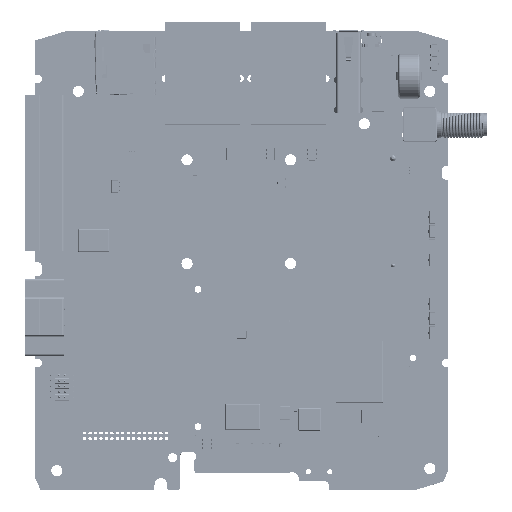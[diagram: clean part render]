
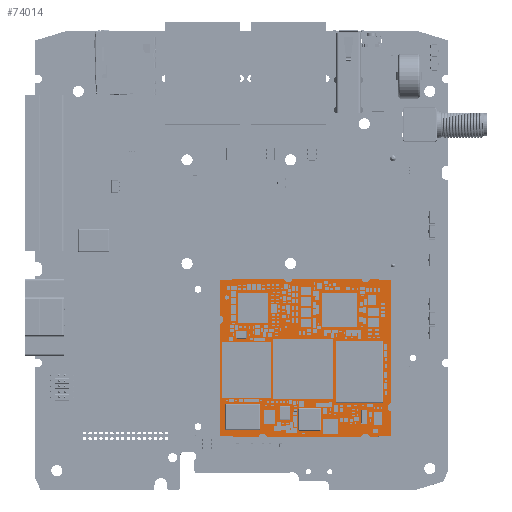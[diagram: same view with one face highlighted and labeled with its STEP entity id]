
A CAD part, top view. The second image highlights one B-rep face of the part: STEP entity #74014.
In plain terms, the highlighted planar face has unit normal (0, 0, 1).
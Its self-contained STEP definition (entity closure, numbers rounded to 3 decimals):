
#74014=ADVANCED_FACE('',(#143606),#143607,.T.);
#143606=FACE_OUTER_BOUND('',#234927,.T.);
#143607=PLANE('',#234928);
#234927=EDGE_LOOP('',(#379091,#379092,#379093,#379094,#379095,#379096,#379097,#379098,#379099,#379100,#379101,#379102,#379103,#379104,#379105,#379106,#379107,#379108,#379109,#379110,#379111,#379112,#379113,#379114));
#234928=AXIS2_PLACEMENT_3D('',#379115,#379116,#379117);
#379091=ORIENTED_EDGE('',*,*,#451080,.T.);
#379092=ORIENTED_EDGE('',*,*,#451088,.T.);
#379093=ORIENTED_EDGE('',*,*,#451085,.T.);
#379094=ORIENTED_EDGE('',*,*,#451089,.T.);
#379095=ORIENTED_EDGE('',*,*,#451090,.T.);
#379096=ORIENTED_EDGE('',*,*,#451091,.T.);
#379097=ORIENTED_EDGE('',*,*,#451092,.T.);
#379098=ORIENTED_EDGE('',*,*,#451093,.T.);
#379099=ORIENTED_EDGE('',*,*,#451094,.T.);
#379100=ORIENTED_EDGE('',*,*,#451095,.T.);
#379101=ORIENTED_EDGE('',*,*,#451096,.T.);
#379102=ORIENTED_EDGE('',*,*,#451097,.T.);
#379103=ORIENTED_EDGE('',*,*,#451098,.T.);
#379104=ORIENTED_EDGE('',*,*,#451099,.T.);
#379105=ORIENTED_EDGE('',*,*,#451100,.T.);
#379106=ORIENTED_EDGE('',*,*,#451101,.T.);
#379107=ORIENTED_EDGE('',*,*,#451102,.T.);
#379108=ORIENTED_EDGE('',*,*,#451103,.T.);
#379109=ORIENTED_EDGE('',*,*,#451104,.T.);
#379110=ORIENTED_EDGE('',*,*,#451075,.T.);
#379111=ORIENTED_EDGE('',*,*,#451105,.T.);
#379112=ORIENTED_EDGE('',*,*,#451106,.T.);
#379113=ORIENTED_EDGE('',*,*,#451107,.T.);
#379114=ORIENTED_EDGE('',*,*,#451108,.T.);
#379115=CARTESIAN_POINT('',(18.213,20.072,1.825));
#379116=DIRECTION('',(0.,0.,1.0));
#379117=DIRECTION('',(1.0,0.,0.0));
#451075=EDGE_CURVE('',#535448,#535446,#535449,.T.);
#451080=EDGE_CURVE('',#535457,#535455,#535458,.T.);
#451085=EDGE_CURVE('',#535466,#535464,#535467,.T.);
#451088=EDGE_CURVE('',#535455,#535466,#535470,.T.);
#451089=EDGE_CURVE('',#535464,#535471,#535472,.T.);
#451090=EDGE_CURVE('',#535471,#535473,#535474,.T.);
#451091=EDGE_CURVE('',#535473,#535475,#535476,.T.);
#451092=EDGE_CURVE('',#535475,#535477,#535478,.T.);
#451093=EDGE_CURVE('',#535477,#535479,#535480,.T.);
#451094=EDGE_CURVE('',#535479,#535481,#535482,.T.);
#451095=EDGE_CURVE('',#535481,#535483,#535484,.T.);
#451096=EDGE_CURVE('',#535483,#535485,#535486,.T.);
#451097=EDGE_CURVE('',#535485,#535487,#535488,.T.);
#451098=EDGE_CURVE('',#535487,#535489,#535490,.T.);
#451099=EDGE_CURVE('',#535489,#535491,#535492,.T.);
#451100=EDGE_CURVE('',#535491,#535493,#535494,.T.);
#451101=EDGE_CURVE('',#535493,#535495,#535496,.T.);
#451102=EDGE_CURVE('',#535495,#535497,#535498,.T.);
#451103=EDGE_CURVE('',#535497,#535499,#535500,.T.);
#451104=EDGE_CURVE('',#535499,#535448,#535501,.T.);
#451105=EDGE_CURVE('',#535446,#535502,#535503,.T.);
#451106=EDGE_CURVE('',#535502,#535504,#535505,.T.);
#451107=EDGE_CURVE('',#535504,#535506,#535507,.T.);
#451108=EDGE_CURVE('',#535506,#535457,#535508,.T.);
#535446=VERTEX_POINT('',#662700);
#535448=VERTEX_POINT('',#662703);
#535449=CIRCLE('',#662704,1.025);
#535455=VERTEX_POINT('',#662711);
#535457=VERTEX_POINT('',#662714);
#535458=CIRCLE('',#662715,1.025);
#535464=VERTEX_POINT('',#662722);
#535466=VERTEX_POINT('',#662725);
#535467=CIRCLE('',#662726,1.025);
#535470=LINE('',#662730,#662731);
#535471=VERTEX_POINT('',#662732);
#535472=LINE('',#662733,#662734);
#535473=VERTEX_POINT('',#662735);
#535474=CIRCLE('',#662736,1.);
#535475=VERTEX_POINT('',#662737);
#535476=LINE('',#662738,#662739);
#535477=VERTEX_POINT('',#662740);
#535478=LINE('',#662741,#662742);
#535479=VERTEX_POINT('',#662743);
#535480=CIRCLE('',#662744,1.025);
#535481=VERTEX_POINT('',#662745);
#535482=LINE('',#662746,#662747);
#535483=VERTEX_POINT('',#662748);
#535484=LINE('',#662749,#662750);
#535485=VERTEX_POINT('',#662751);
#535486=CIRCLE('',#662752,1.0);
#535487=VERTEX_POINT('',#662753);
#535488=LINE('',#662754,#662755);
#535489=VERTEX_POINT('',#662756);
#535490=CIRCLE('',#662757,1.025);
#535491=VERTEX_POINT('',#662758);
#535492=LINE('',#662759,#662760);
#535493=VERTEX_POINT('',#662761);
#535494=CIRCLE('',#662762,1.025);
#535495=VERTEX_POINT('',#662763);
#535496=LINE('',#662764,#662765);
#535497=VERTEX_POINT('',#662766);
#535498=CIRCLE('',#662767,1.);
#535499=VERTEX_POINT('',#662768);
#535500=LINE('',#662769,#662770);
#535501=LINE('',#662771,#662772);
#535502=VERTEX_POINT('',#662773);
#535503=LINE('',#662774,#662775);
#535504=VERTEX_POINT('',#662776);
#535505=LINE('',#662777,#662778);
#535506=VERTEX_POINT('',#662779);
#535507=CIRCLE('',#662780,1.0);
#535508=LINE('',#662781,#662782);
#662700=CARTESIAN_POINT('',(28.695,40.0,1.825));
#662703=CARTESIAN_POINT('',(30.705,40.0,1.825));
#662704=AXIS2_PLACEMENT_3D('',#728291,#728292,#728293);
#662711=CARTESIAN_POINT('',(-0.3,32.995,1.825));
#662714=CARTESIAN_POINT('',(-0.3,35.005,1.825));
#662715=AXIS2_PLACEMENT_3D('',#728299,#728300,#728301);
#662722=CARTESIAN_POINT('',(-0.3,14.995,1.825));
#662725=CARTESIAN_POINT('',(-0.3,17.005,1.825));
#662726=AXIS2_PLACEMENT_3D('',#728307,#728308,#728309);
#662730=CARTESIAN_POINT('',(-0.3,25.0,1.825));
#662731=VECTOR('',#728311,1.0);
#662732=CARTESIAN_POINT('',(-0.3,3.214,1.825));
#662733=CARTESIAN_POINT('',(-0.3,9.104,1.825));
#662734=VECTOR('',#728312,1.0);
#662735=CARTESIAN_POINT('',(0.,2.5,1.825));
#662736=AXIS2_PLACEMENT_3D('',#728313,#728314,#728315);
#662737=CARTESIAN_POINT('',(0.,0.,1.825));
#662738=CARTESIAN_POINT('',(0.,1.25,1.825));
#662739=VECTOR('',#728316,1.0);
#662740=CARTESIAN_POINT('',(8.295,0.,1.825));
#662741=CARTESIAN_POINT('',(4.147,0.,1.825));
#662742=VECTOR('',#728317,1.0);
#662743=CARTESIAN_POINT('',(10.305,0.,1.825));
#662744=AXIS2_PLACEMENT_3D('',#728318,#728319,#728320);
#662745=CARTESIAN_POINT('',(36.4,0.,1.825));
#662746=CARTESIAN_POINT('',(23.353,0.,1.825));
#662747=VECTOR('',#728321,1.0);
#662748=CARTESIAN_POINT('',(36.4,2.5,1.825));
#662749=CARTESIAN_POINT('',(36.4,1.25,1.825));
#662750=VECTOR('',#728322,1.0);
#662751=CARTESIAN_POINT('',(36.7,3.214,1.825));
#662752=AXIS2_PLACEMENT_3D('',#728323,#728324,#728325);
#662753=CARTESIAN_POINT('',(36.7,8.995,1.825));
#662754=CARTESIAN_POINT('',(36.7,6.104,1.825));
#662755=VECTOR('',#728326,1.0);
#662756=CARTESIAN_POINT('',(36.7,11.005,1.825));
#662757=AXIS2_PLACEMENT_3D('',#728327,#728328,#728329);
#662758=CARTESIAN_POINT('',(36.7,32.995,1.825));
#662759=CARTESIAN_POINT('',(36.7,22.0,1.825));
#662760=VECTOR('',#728330,1.0);
#662761=CARTESIAN_POINT('',(36.7,35.005,1.825));
#662762=AXIS2_PLACEMENT_3D('',#728331,#728332,#728333);
#662763=CARTESIAN_POINT('',(36.7,36.786,1.825));
#662764=CARTESIAN_POINT('',(36.7,35.896,1.825));
#662765=VECTOR('',#728334,1.0);
#662766=CARTESIAN_POINT('',(36.4,37.5,1.825));
#662767=AXIS2_PLACEMENT_3D('',#728335,#728336,#728337);
#662768=CARTESIAN_POINT('',(36.4,40.0,1.825));
#662769=CARTESIAN_POINT('',(36.4,38.75,1.825));
#662770=VECTOR('',#728338,1.0);
#662771=CARTESIAN_POINT('',(33.553,40.0,1.825));
#662772=VECTOR('',#728339,1.0);
#662773=CARTESIAN_POINT('',(0.,40.0,1.825));
#662774=CARTESIAN_POINT('',(14.347,40.0,1.825));
#662775=VECTOR('',#728340,1.0);
#662776=CARTESIAN_POINT('',(0.,37.5,1.825));
#662777=CARTESIAN_POINT('',(0.,38.75,1.825));
#662778=VECTOR('',#728341,1.0);
#662779=CARTESIAN_POINT('',(-0.3,36.786,1.825));
#662780=AXIS2_PLACEMENT_3D('',#728342,#728343,#728344);
#662781=CARTESIAN_POINT('',(-0.3,35.896,1.825));
#662782=VECTOR('',#728345,1.0);
#728291=CARTESIAN_POINT('',(29.7,40.2,1.825));
#728292=DIRECTION('',(0.0,0.0,-1.0));
#728293=DIRECTION('',(0.981,-0.195,0.0));
#728299=CARTESIAN_POINT('',(-0.5,34.0,1.825));
#728300=DIRECTION('',(0.0,0.0,-1.0));
#728301=DIRECTION('',(0.195,0.981,0.0));
#728307=CARTESIAN_POINT('',(-0.5,16.0,1.825));
#728308=DIRECTION('',(0.0,0.0,-1.0));
#728309=DIRECTION('',(0.195,0.981,0.0));
#728311=DIRECTION('',(0.,-1.0,0.0));
#728312=DIRECTION('',(0.,-1.0,0.0));
#728313=CARTESIAN_POINT('',(-1.0,2.5,1.825));
#728314=DIRECTION('',(0.0,0.0,-1.0));
#728315=DIRECTION('',(0.7,0.714,0.0));
#728316=DIRECTION('',(0.,-1.,0.0));
#728317=DIRECTION('',(1.0,0.0,0.0));
#728318=CARTESIAN_POINT('',(9.3,-0.2,1.825));
#728319=DIRECTION('',(0.0,0.0,-1.0));
#728320=DIRECTION('',(-0.981,0.195,0.0));
#728321=DIRECTION('',(1.0,0.,0.0));
#728322=DIRECTION('',(0.0,1.0,0.0));
#728323=CARTESIAN_POINT('',(37.4,2.5,1.825));
#728324=DIRECTION('',(0.0,0.0,-1.0));
#728325=DIRECTION('',(-1.0,0.0,0.0));
#728326=DIRECTION('',(0.,1.0,0.0));
#728327=CARTESIAN_POINT('',(36.9,10.0,1.825));
#728328=DIRECTION('',(-0.0,0.0,-1.0));
#728329=DIRECTION('',(-0.195,-0.981,0.0));
#728330=DIRECTION('',(0.0,1.0,0.0));
#728331=CARTESIAN_POINT('',(36.9,34.0,1.825));
#728332=DIRECTION('',(-0.0,0.0,-1.0));
#728333=DIRECTION('',(-0.195,-0.981,0.0));
#728334=DIRECTION('',(0.0,1.0,0.0));
#728335=CARTESIAN_POINT('',(37.4,37.5,1.825));
#728336=DIRECTION('',(-0.0,0.0,-1.0));
#728337=DIRECTION('',(-0.7,-0.714,0.0));
#728338=DIRECTION('',(0.,1.,0.0));
#728339=DIRECTION('',(-1.0,0.0,0.0));
#728340=DIRECTION('',(-1.0,0.0,0.0));
#728341=DIRECTION('',(0.0,-1.0,0.0));
#728342=CARTESIAN_POINT('',(-1.0,37.5,1.825));
#728343=DIRECTION('',(0.0,0.0,-1.0));
#728344=DIRECTION('',(1.0,0.0,0.0));
#728345=DIRECTION('',(0.,-1.,0.0));
